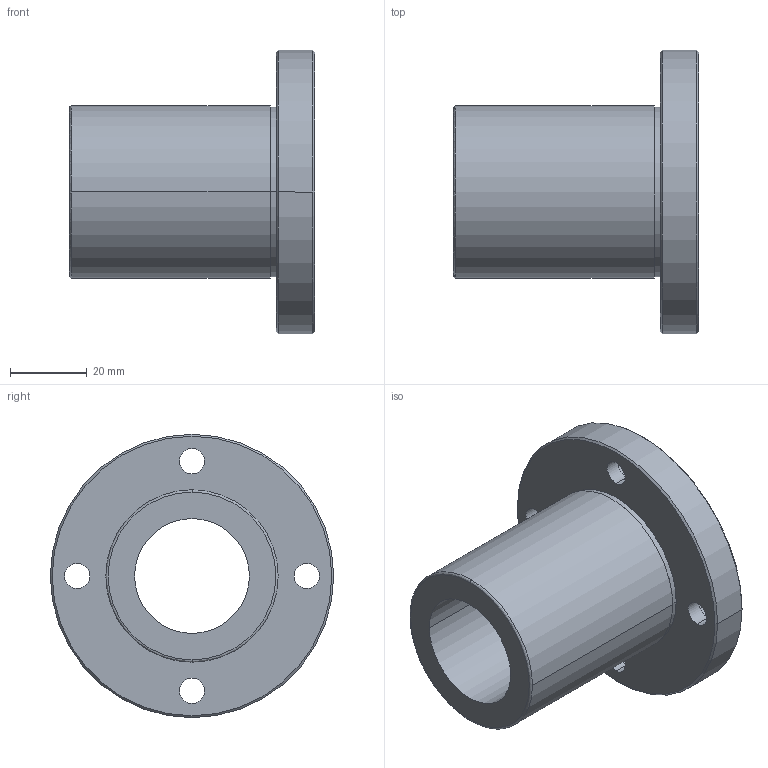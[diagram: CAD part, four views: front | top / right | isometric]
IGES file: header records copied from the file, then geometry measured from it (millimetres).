
Start section: 3D InterOp IGES (Version 21 0 1), Spatial Corp. Copyright (c) 1999-2007.
Global section: file name: NFED-30VUU.igs; native system: Spatial Corp.; preprocessor: 3D InterOp GENERIC/IGES 3.0; author: Noname; organization: Noname; date: 20220308.093836; units: millimetre
Bounding box: 64 x 74 x 74 mm (x, y, z)
Surface area: 23979.5 mm2 (no closed solid volume)
Topology: 0 solids, 0 shells, 38 faces, 174 edges, 174 vertices
Faces by surface type: revolution 30, extrusion 8
